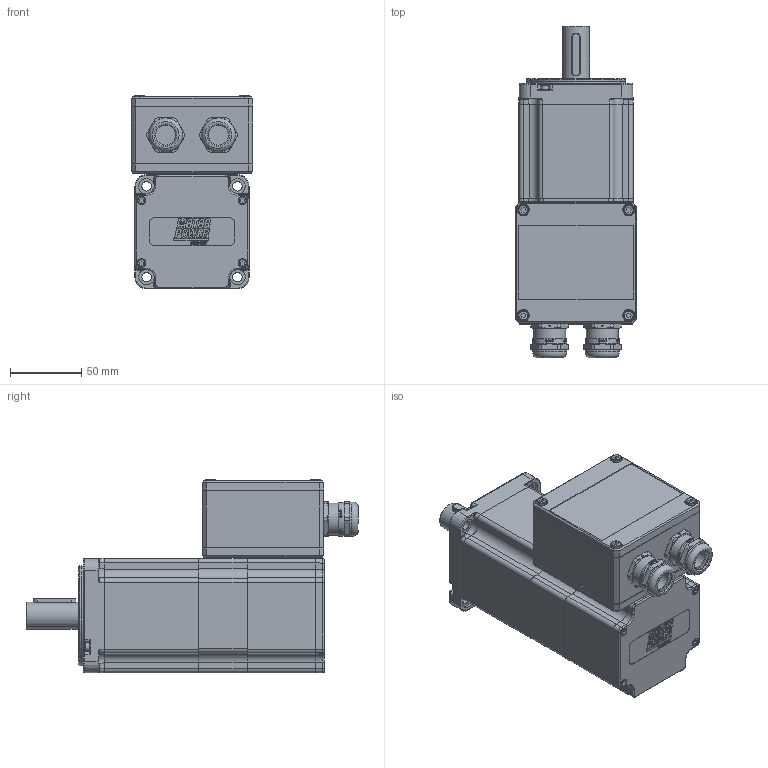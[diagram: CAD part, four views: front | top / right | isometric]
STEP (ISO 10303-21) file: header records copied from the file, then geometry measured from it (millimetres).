
FILE_DESCRIPTION(/* description */ ('Unknown'),/* implementation_level */ '2;1');
FILE_NAME(/* name */ 'TC4-80.3A LV M1 FRENO MORS Q0C152',/* time_stamp */ '2026-06-09T14:26:31+02:00',/* author */ ('Unknown'),/* organization */ ('Unknown'),/* preprocessor_version */ 'ST-DEVELOPER v19.4',/* originating_system */ 'Solid Edge',/* authorisation */ 'Unknown');
FILE_SCHEMA (('AUTOMOTIVE_DESIGN {1 0 10303 214 3 1 1}'));
Products named in the file (24): Q0C152 3A FRENO M1 VUOTO; Albero TC4 80 H16 A19 FRENO LV; 005119001500; 003155002220; 003103040223; 003107003286; 003755100351; 007303000110; 005911000160; 005911000420; 005603000170; 005603000170_Gland; 005603000170_Nut; 005603000170_Clamping insert; 005603000170_Sealing insert; 005603000170_O Ring; 007303000700; 003110000130; 005911000495; 005911000550; 003799004095; 003151003185; 005113000500; 003251040719
Assembly tree (37 placements, depth 3):
  Q0C152 3A FRENO M1 VUOTO
    Albero TC4 80 H16 A19 FRENO LV
    005119001500
    003155002220
    003103040223
    003107003286
    003755100351
    007303000110  x2
    005911000160  x4
    005911000420  x4
    005603000170  x2
      005603000170_Gland
      005603000170_Nut
      005603000170_Clamping insert
      005603000170_Sealing insert
      005603000170_O Ring
    007303000700
    003110000130
    005911000495  x4
    005911000550  x4
    003799004095
    003151003185
    005113000500
    003251040719
Bounding box: 85.23 x 232.69 x 135.71 mm (x, y, z)
Volume: 518037.7 mm3; surface area: 272951.2 mm2
Topology: 42 solids, 42 shells, 3122 faces, 8017 edges, 5152 vertices
Faces by surface type: plane 1866, cylinder 636, cone 236, bspline 189, torus 175, sphere 20
Full cylindrical faces by diameter (mm): 1 x8, 2.459 x32, 2.5 x1, 3 x8, 3.2 x1, 3.242 x4, 3.3 x4, 3.5 x16, 4 x8, 4.5 x4, 4.917 x1, 5 x8, 5.15 x8, 5.5 x8, 6 x4, 6.4 x1, 6.5 x4, 6.6 x4, 7 x12, 8 x4, 11 x4, 14 x2, 14.2 x2, 14.3 x2, 15 x2, 16.1 x4, 17 x1, 18.4 x4, 19 x3, 19.2 x4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
Entity records: 84684 total; most frequent: CARTESIAN_POINT 18343, ORIENTED_EDGE 11156, DIRECTION 11056, EDGE_CURVE 5578, AXIS2_PLACEMENT_3D 3932, VERTEX_POINT 3753, LINE 3192, VECTOR 3192
